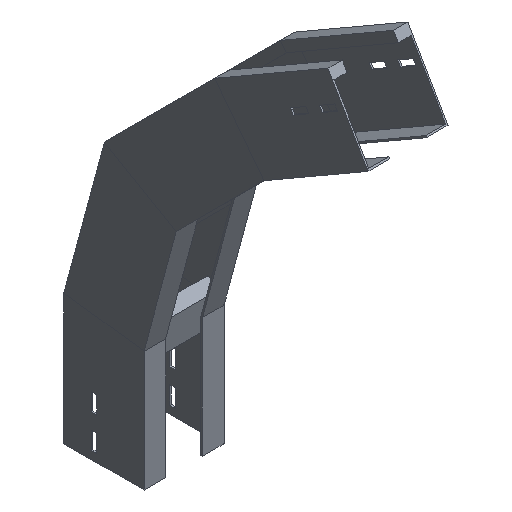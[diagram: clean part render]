
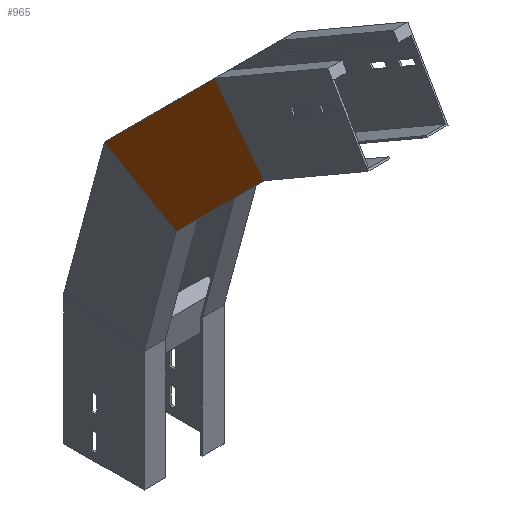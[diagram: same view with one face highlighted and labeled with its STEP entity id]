
A CAD part, isometric view. The second image highlights one B-rep face of the part: STEP entity #965.
In plain terms, the highlighted planar face has unit normal (-1, 0, 0) as drawn and (1, 0, 0) by its records, which use the part's own axes.
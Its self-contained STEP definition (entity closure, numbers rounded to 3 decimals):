
#3 = VERTEX_POINT ( 'NONE', #601 ) ;
#30 = CARTESIAN_POINT ( 'NONE',  ( 0., -40.117, 299.719 ) ) ;
#135 = LINE ( 'NONE', #481, #487 ) ;
#234 = DIRECTION ( 'NONE',  ( 1., 0., 0. ) ) ;
#279 = VERTEX_POINT ( 'NONE', #30 ) ;
#298 = AXIS2_PLACEMENT_3D ( 'NONE', #1405, #234, #646 ) ;
#330 = VECTOR ( 'NONE', #1444, 1000. ) ;
#342 = DIRECTION ( 'NONE',  ( 0., -0.259, 0.966 ) ) ;
#422 = ORIENTED_EDGE ( 'NONE', *, *, #1691, .T. ) ;
#475 = LINE ( 'NONE', #1530, #1328 ) ;
#481 = CARTESIAN_POINT ( 'NONE',  ( 0., -19.411, 147.444 ) ) ;
#487 = VECTOR ( 'NONE', #1126, 1000. ) ;
#563 = EDGE_LOOP ( 'NONE', ( #422, #1152, #595, #1150 ) ) ;
#595 = ORIENTED_EDGE ( 'NONE', *, *, #1628, .F. ) ;
#601 = CARTESIAN_POINT ( 'NONE',  ( 0., 49.541, 351.482 ) ) ;
#646 = DIRECTION ( 'NONE',  ( 0., 0., -1. ) ) ;
#740 = LINE ( 'NONE', #1686, #330 ) ;
#940 = EDGE_CURVE ( 'NONE', #1625, #1190, #135, .T. ) ;
#965 = ADVANCED_FACE ( 'NONE', ( #1434 ), #1144, .T. ) ;
#1073 = CARTESIAN_POINT ( 'NONE',  ( 0., 100., 163.165 ) ) ;
#1126 = DIRECTION ( 'NONE',  ( 0., -0.991, -0.131 ) ) ;
#1144 = PLANE ( 'NONE',  #298 ) ;
#1150 = ORIENTED_EDGE ( 'NONE', *, *, #940, .F. ) ;
#1152 = ORIENTED_EDGE ( 'NONE', *, *, #1546, .T. ) ;
#1189 = CARTESIAN_POINT ( 'NONE',  ( 0., 3.774, 135.915 ) ) ;
#1190 = VERTEX_POINT ( 'NONE', #1357 ) ;
#1328 = VECTOR ( 'NONE', #342, 1000. ) ;
#1335 = DIRECTION ( 'NONE',  ( 0., -0.259, 0.966 ) ) ;
#1352 = LINE ( 'NONE', #1189, #1523 ) ;
#1357 = CARTESIAN_POINT ( 'NONE',  ( 0., 0., 150. ) ) ;
#1405 = CARTESIAN_POINT ( 'NONE',  ( 0., 3.774, 135.915 ) ) ;
#1434 = FACE_OUTER_BOUND ( 'NONE', #563, .T. ) ;
#1444 = DIRECTION ( 'NONE',  ( 0., -0.866, -0.5 ) ) ;
#1523 = VECTOR ( 'NONE', #1335, 1000. ) ;
#1530 = CARTESIAN_POINT ( 'NONE',  ( 0., 100.367, 161.797 ) ) ;
#1546 = EDGE_CURVE ( 'NONE', #3, #279, #740, .T. ) ;
#1625 = VERTEX_POINT ( 'NONE', #1073 ) ;
#1628 = EDGE_CURVE ( 'NONE', #1190, #279, #1352, .T. ) ;
#1686 = CARTESIAN_POINT ( 'NONE',  ( 0., -78.128, 277.773 ) ) ;
#1691 = EDGE_CURVE ( 'NONE', #1625, #3, #475, .T. ) ;
